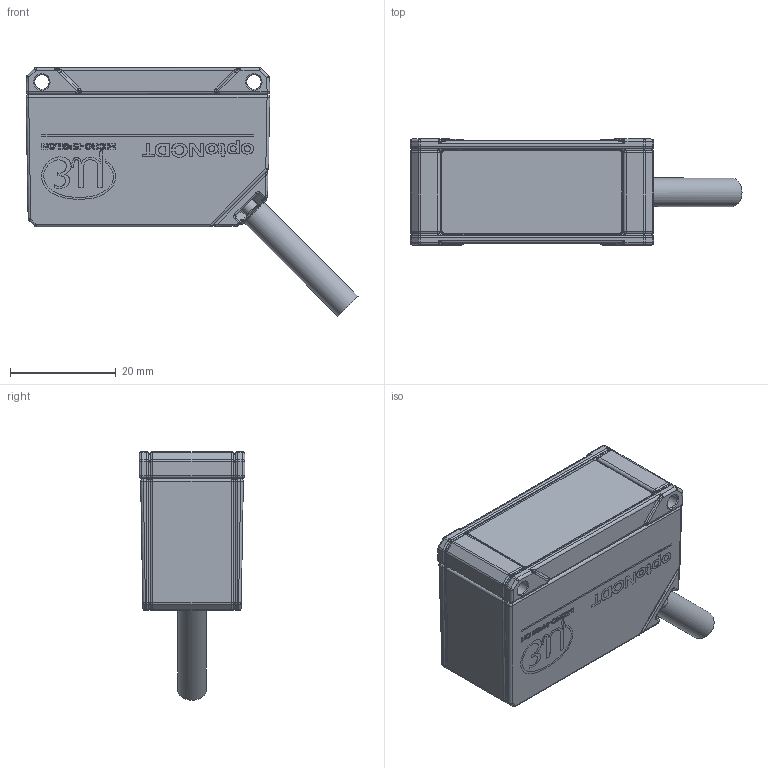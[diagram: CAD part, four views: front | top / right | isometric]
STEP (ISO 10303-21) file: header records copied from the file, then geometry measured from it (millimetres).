
FILE_DESCRIPTION (( 'STEP AP203' ), '1' );
FILE_NAME ('ILD1320-1420.STEP', '2015-09-30T13:43:13', ( 'MICRO-EPSILON Optronic GmbH' ), ( 'MICRO-EPSILON Optronic GmbH' ), 'SwSTEP 2.0', 'SolidWorks 2015', '' );
FILE_SCHEMA (( 'CONFIG_CONTROL_DESIGN' ));
Products named in the file (1): ILD1320-1420
Bounding box: 62.64 x 20 x 46.9 mm (x, y, z)
Volume: 25223.9 mm3; surface area: 8531.7 mm2
Topology: 3 solids, 5 shells, 1753 faces, 4425 edges, 2663 vertices
Faces by surface type: bspline 730, plane 554, cylinder 348, sphere 100, cone 11, torus 10
Full cylindrical faces by diameter (mm): 2.7 x2, 3 x2, 3.3 x1, 5.4 x1
Entity records: 61322 total; most frequent: CARTESIAN_POINT 25133, ORIENTED_EDGE 8606, DIRECTION 5544, EDGE_CURVE 4303, VERTEX_POINT 2650, VECTOR 2168, LINE 2168, EDGE_LOOP 1847
